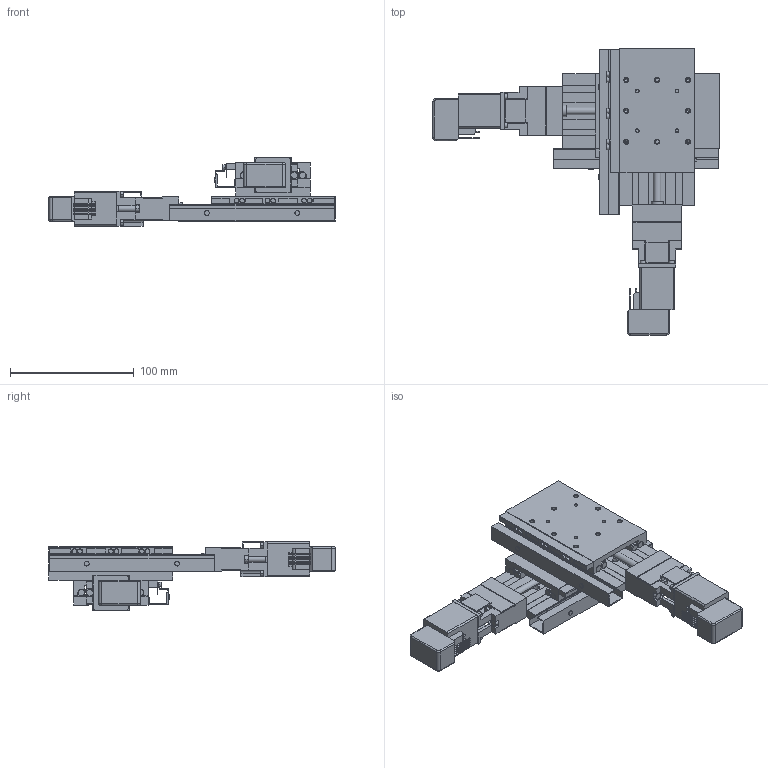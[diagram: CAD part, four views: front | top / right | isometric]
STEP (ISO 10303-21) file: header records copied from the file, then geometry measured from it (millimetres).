
FILE_DESCRIPTION(('STEP AP203'),'1');
FILE_NAME('C:/3D-Trans/3D_PMG650T-L□-ZA+240122.step','2024-03-14T08:43:15',(' '),(' '),'Spatial InterOp 3D',' ',' ');
FILE_SCHEMA(('CONFIG_CONTROL_DESIGN'));
Length unit declared in the file: millimetre
Products named in the file (13): 1; 2; 3; 4; 5; 6; 7; 8; 9; 10; 11; 12; 13
Bounding box: 231 x 231 x 55 mm (x, y, z)
Volume: 381756.9 mm3; surface area: 168330.2 mm2
Topology: 13 solids, 13 shells, 1184 faces, 3000 edges, 1864 vertices
Faces by surface type: plane 600, cylinder 408, cone 168, torus 8
Entity records: 36278 total; most frequent: CARTESIAN_POINT 6655, DIRECTION 6290, ORIENTED_EDGE 5888, EDGE_CURVE 2944, AXIS2_PLACEMENT_3D 2203, LINE 1884, VECTOR 1884, VERTEX_POINT 1864
